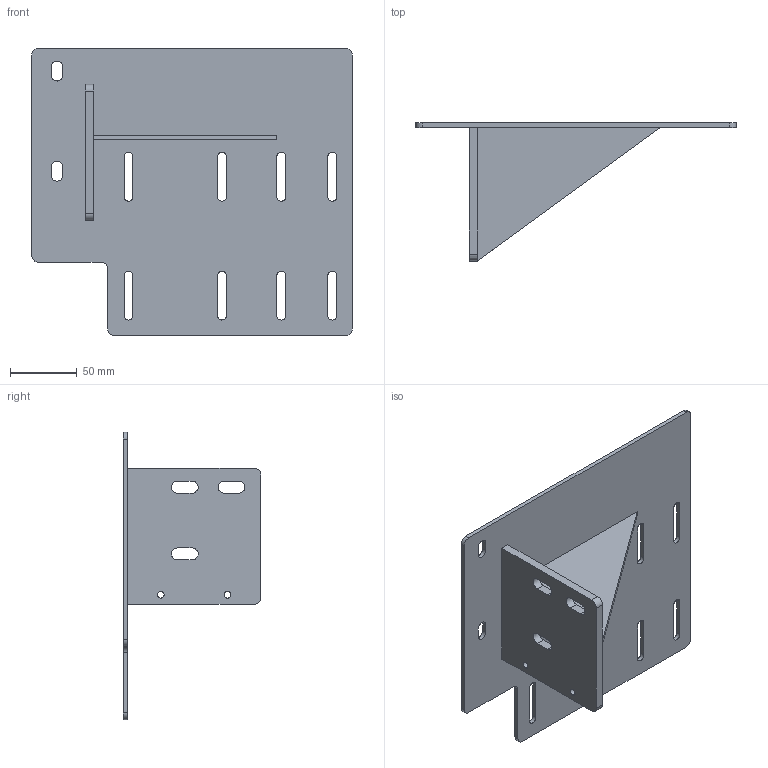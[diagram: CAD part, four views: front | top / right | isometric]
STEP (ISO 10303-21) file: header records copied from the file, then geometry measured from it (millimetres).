
FILE_DESCRIPTION (( 'STEP AP214' ), '1' );
FILE_NAME ('233883C.STEP', '2018-05-21T12:01:37', ( 'Windows User' ), ( 'IT' ), 'SwSTEP 2.0', 'SolidWorks 2017', '' );
FILE_SCHEMA (( 'AUTOMOTIVE_DESIGN' ));
Length unit declared in the file: inch
Products named in the file (4): 233885; 233886; 233884; 233883C
Assembly tree (3 placements, depth 2):
  233883C
    233884
    233885
    233886
Bounding box: 240 x 103.17 x 215 mm (x, y, z)
Volume: 230084.7 mm3; surface area: 135819.7 mm2
Topology: 3 solids, 3 shells, 93 faces, 261 edges, 174 vertices
Faces by surface type: cylinder 48, plane 45
Entity records: 3317 total; most frequent: DIRECTION 555, CARTESIAN_POINT 534, ORIENTED_EDGE 522, EDGE_CURVE 261, AXIS2_PLACEMENT_3D 195, VERTEX_POINT 174, VECTOR 165, LINE 165
